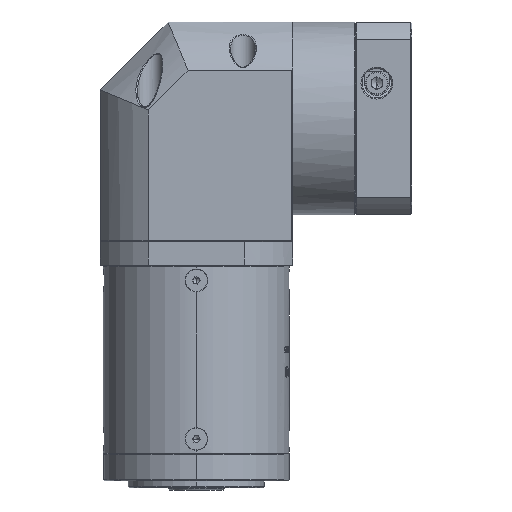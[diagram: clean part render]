
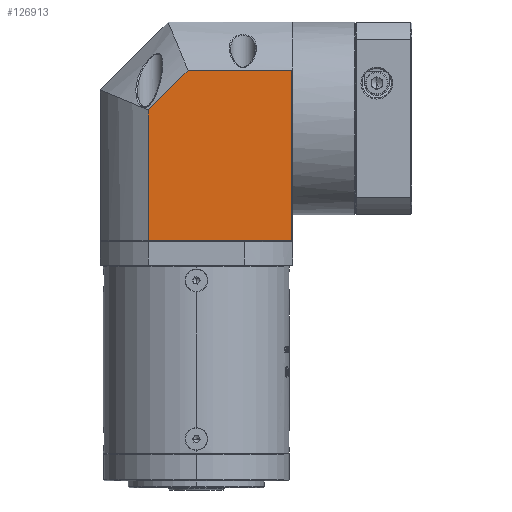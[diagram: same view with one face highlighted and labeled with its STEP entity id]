
A CAD part, front view. The second image highlights one B-rep face of the part: STEP entity #126913.
In plain terms, the highlighted planar face has unit normal (0, -1, 0).
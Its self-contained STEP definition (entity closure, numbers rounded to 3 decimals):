
#420 = EDGE_LOOP ( 'NONE', ( #748, #175879, #178447, #17538, #45836 ) ) ;
#748 = ORIENTED_EDGE ( 'NONE', *, *, #24545, .T. ) ;
#2511 = CARTESIAN_POINT ( 'NONE',  ( 145.723, 228.511, -0.61 ) ) ;
#3065 = VERTEX_POINT ( 'NONE', #111938 ) ;
#16929 = DIRECTION ( 'NONE',  ( 0., 1., 0. ) ) ;
#17461 = CARTESIAN_POINT ( 'NONE',  ( 145.223, 228.511, 74.603 ) ) ;
#17538 = ORIENTED_EDGE ( 'NONE', *, *, #138867, .F. ) ;
#24545 = EDGE_CURVE ( 'NONE', #58517, #131600, #70603, .T. ) ;
#30821 = CARTESIAN_POINT ( 'NONE',  ( 145.223, 228.511, 95.89 ) ) ;
#40681 = CARTESIAN_POINT ( 'NONE',  ( 145.723, 228.511, 74.603 ) ) ;
#45836 = ORIENTED_EDGE ( 'NONE', *, *, #46580, .F. ) ;
#46580 = EDGE_CURVE ( 'NONE', #58517, #3065, #112935, .T. ) ;
#47406 = CARTESIAN_POINT ( 'NONE',  ( 82.01, 228.511, 57.073 ) ) ;
#58496 = VECTOR ( 'NONE', #97231, 1000. ) ;
#58517 = VERTEX_POINT ( 'NONE', #128377 ) ;
#58553 = DIRECTION ( 'NONE',  ( 0., 0., -1. ) ) ;
#70603 = LINE ( 'NONE', #2511, #145438 ) ;
#76690 = CARTESIAN_POINT ( 'NONE',  ( 82.01, 228.511, 95.89 ) ) ;
#77266 = EDGE_CURVE ( 'NONE', #140508, #131600, #127990, .T. ) ;
#80562 = EDGE_CURVE ( 'NONE', #106856, #140508, #95944, .T. ) ;
#81953 = VECTOR ( 'NONE', #103389, 1000. ) ;
#88624 = VECTOR ( 'NONE', #161069, 1000. ) ;
#90455 = VECTOR ( 'NONE', #58553, 1000. ) ;
#95944 = LINE ( 'NONE', #40681, #58496 ) ;
#96971 = FACE_OUTER_BOUND ( 'NONE', #420, .T. ) ;
#97231 = DIRECTION ( 'NONE',  ( 1., 0., 0. ) ) ;
#100932 = DIRECTION ( 'NONE',  ( 1., 0., 0. ) ) ;
#101170 = CARTESIAN_POINT ( 'NONE',  ( 145.723, 228.511, 95.89 ) ) ;
#101630 = AXIS2_PLACEMENT_3D ( 'NONE', #101170, #16929, #115362 ) ;
#103389 = DIRECTION ( 'NONE',  ( 0.707, 0., 0.707 ) ) ;
#106856 = VERTEX_POINT ( 'NONE', #164325 ) ;
#111938 = CARTESIAN_POINT ( 'NONE',  ( 82.01, 228.511, 57.073 ) ) ;
#112935 = LINE ( 'NONE', #76690, #88624 ) ;
#115362 = DIRECTION ( 'NONE',  ( -1., 0., 0. ) ) ;
#126913 = ADVANCED_FACE ( 'NONE', ( #96971 ), #128926, .F. ) ;
#127990 = LINE ( 'NONE', #30821, #90455 ) ;
#128377 = CARTESIAN_POINT ( 'NONE',  ( 82.01, 228.511, -0.61 ) ) ;
#128926 = PLANE ( 'NONE',  #101630 ) ;
#131600 = VERTEX_POINT ( 'NONE', #175391 ) ;
#138867 = EDGE_CURVE ( 'NONE', #3065, #106856, #156803, .T. ) ;
#140508 = VERTEX_POINT ( 'NONE', #17461 ) ;
#145438 = VECTOR ( 'NONE', #100932, 1000. ) ;
#156803 = LINE ( 'NONE', #47406, #81953 ) ;
#161069 = DIRECTION ( 'NONE',  ( 0., 0., 1. ) ) ;
#164325 = CARTESIAN_POINT ( 'NONE',  ( 99.54, 228.511, 74.603 ) ) ;
#175391 = CARTESIAN_POINT ( 'NONE',  ( 145.223, 228.511, -0.61 ) ) ;
#175879 = ORIENTED_EDGE ( 'NONE', *, *, #77266, .F. ) ;
#178447 = ORIENTED_EDGE ( 'NONE', *, *, #80562, .F. ) ;
